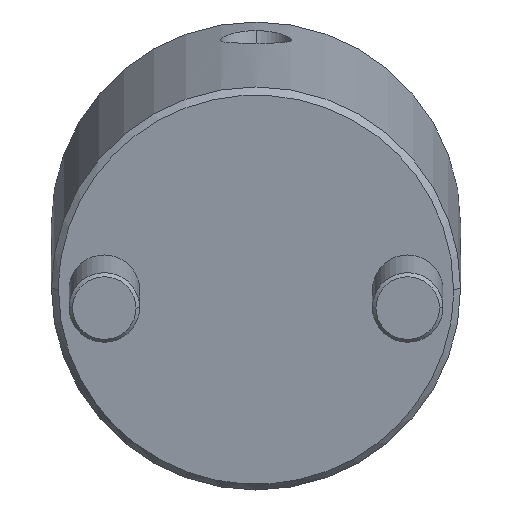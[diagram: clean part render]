
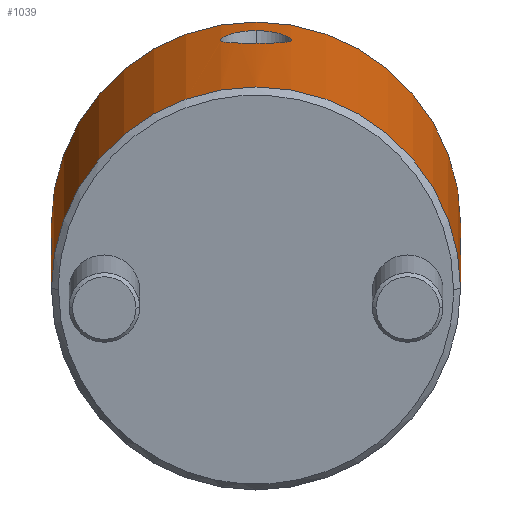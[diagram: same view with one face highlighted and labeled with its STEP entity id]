
A CAD part, front view. The second image highlights one B-rep face of the part: STEP entity #1039.
In plain terms, the highlighted cylindrical face has radius 29 mm (diameter 58 mm), a partial arc.
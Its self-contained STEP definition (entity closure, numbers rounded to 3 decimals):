
#772=CARTESIAN_POINT('Vertex',(0.,29.,1.)) ;
#775=CARTESIAN_POINT('Axis2P3D Location',(0.,0.,1.)) ;
#779=CARTESIAN_POINT('Vertex',(0.,-29.,1.)) ;
#931=CARTESIAN_POINT('Axis2P3D Location',(0.,0.,-2.75)) ;
#936=CARTESIAN_POINT('Line Origine',(0.,29.,-2.75)) ;
#940=CARTESIAN_POINT('Vertex',(0.,29.,54.)) ;
#943=CARTESIAN_POINT('Axis2P3D Location',(0.,0.,54.)) ;
#947=CARTESIAN_POINT('Vertex',(0.,-29.,54.)) ;
#950=CARTESIAN_POINT('Line Origine',(0.,-29.,-2.75)) ;
#962=CARTESIAN_POINT('Control Point',(29.,0.,46.955)) ;
#963=CARTESIAN_POINT('Control Point',(29.,0.427,46.955)) ;
#964=CARTESIAN_POINT('Control Point',(28.992,0.85,46.909)) ;
#965=CARTESIAN_POINT('Control Point',(28.977,1.272,46.813)) ;
#966=CARTESIAN_POINT('Control Point',(28.943,1.883,46.602)) ;
#967=CARTESIAN_POINT('Control Point',(28.897,2.455,46.291)) ;
#968=CARTESIAN_POINT('Control Point',(28.88,2.642,46.176)) ;
#969=CARTESIAN_POINT('Control Point',(28.845,3.003,45.926)) ;
#970=CARTESIAN_POINT('Control Point',(28.808,3.336,45.636)) ;
#971=CARTESIAN_POINT('Control Point',(28.789,3.495,45.482)) ;
#972=CARTESIAN_POINT('Control Point',(28.732,3.952,44.989)) ;
#973=CARTESIAN_POINT('Control Point',(28.677,4.325,44.429)) ;
#974=CARTESIAN_POINT('Control Point',(28.645,4.532,44.028)) ;
#975=CARTESIAN_POINT('Control Point',(28.604,4.777,43.404)) ;
#976=CARTESIAN_POINT('Control Point',(28.58,4.919,42.751)) ;
#977=CARTESIAN_POINT('Control Point',(28.573,4.955,42.53)) ;
#978=CARTESIAN_POINT('Control Point',(28.563,5.016,41.981)) ;
#979=CARTESIAN_POINT('Control Point',(28.565,5.003,41.43)) ;
#980=CARTESIAN_POINT('Control Point',(28.571,4.968,41.099)) ;
#981=CARTESIAN_POINT('Control Point',(28.596,4.826,40.344)) ;
#982=CARTESIAN_POINT('Control Point',(28.642,4.545,39.632)) ;
#983=CARTESIAN_POINT('Control Point',(28.675,4.341,39.243)) ;
#984=CARTESIAN_POINT('Control Point',(28.729,3.974,38.702)) ;
#985=CARTESIAN_POINT('Control Point',(28.786,3.524,38.229)) ;
#986=CARTESIAN_POINT('Control Point',(28.805,3.366,38.08)) ;
#987=CARTESIAN_POINT('Control Point',(28.842,3.033,37.799)) ;
#988=CARTESIAN_POINT('Control Point',(28.878,2.671,37.556)) ;
#989=CARTESIAN_POINT('Control Point',(28.895,2.482,37.444)) ;
#990=CARTESIAN_POINT('Control Point',(28.941,1.907,37.143)) ;
#991=CARTESIAN_POINT('Control Point',(28.976,1.287,36.939)) ;
#992=CARTESIAN_POINT('Control Point',(28.992,0.861,36.847)) ;
#993=CARTESIAN_POINT('Control Point',(29.,0.432,36.801)) ;
#994=CARTESIAN_POINT('Control Point',(29.,0.,36.801)) ;
#995=CARTESIAN_POINT('Vertex',(29.,0.,46.955)) ;
#997=CARTESIAN_POINT('Vertex',(29.,0.,36.801)) ;
#1001=CARTESIAN_POINT('Control Point',(29.,0.,36.801)) ;
#1002=CARTESIAN_POINT('Control Point',(29.,-0.219,36.801)) ;
#1003=CARTESIAN_POINT('Control Point',(28.998,-0.438,36.813)) ;
#1004=CARTESIAN_POINT('Control Point',(28.994,-0.655,36.836)) ;
#1005=CARTESIAN_POINT('Control Point',(28.982,-1.087,36.907)) ;
#1006=CARTESIAN_POINT('Control Point',(28.962,-1.51,37.024)) ;
#1007=CARTESIAN_POINT('Control Point',(28.95,-1.717,37.093)) ;
#1008=CARTESIAN_POINT('Control Point',(28.924,-2.123,37.255)) ;
#1009=CARTESIAN_POINT('Control Point',(28.892,-2.509,37.459)) ;
#1010=CARTESIAN_POINT('Control Point',(28.875,-2.697,37.573)) ;
#1011=CARTESIAN_POINT('Control Point',(28.822,-3.237,37.94)) ;
#1012=CARTESIAN_POINT('Control Point',(28.764,-3.711,38.391)) ;
#1013=CARTESIAN_POINT('Control Point',(28.725,-3.994,38.727)) ;
#1014=CARTESIAN_POINT('Control Point',(28.672,-4.357,39.271)) ;
#1015=CARTESIAN_POINT('Control Point',(28.629,-4.626,39.868)) ;
#1016=CARTESIAN_POINT('Control Point',(28.616,-4.705,40.071)) ;
#1017=CARTESIAN_POINT('Control Point',(28.593,-4.84,40.485)) ;
#1018=CARTESIAN_POINT('Control Point',(28.578,-4.93,40.914)) ;
#1019=CARTESIAN_POINT('Control Point',(28.572,-4.963,41.133)) ;
#1020=CARTESIAN_POINT('Control Point',(28.561,-5.029,41.793)) ;
#1021=CARTESIAN_POINT('Control Point',(28.568,-4.987,42.456)) ;
#1022=CARTESIAN_POINT('Control Point',(28.581,-4.912,42.898)) ;
#1023=CARTESIAN_POINT('Control Point',(28.623,-4.67,43.756)) ;
#1024=CARTESIAN_POINT('Control Point',(28.688,-4.251,44.551)) ;
#1025=CARTESIAN_POINT('Control Point',(28.725,-4.001,44.922)) ;
#1026=CARTESIAN_POINT('Control Point',(28.802,-3.424,45.61)) ;
#1027=CARTESIAN_POINT('Control Point',(28.875,-2.721,46.15)) ;
#1028=CARTESIAN_POINT('Control Point',(28.909,-2.344,46.379)) ;
#1029=CARTESIAN_POINT('Control Point',(28.958,-1.663,46.697)) ;
#1030=CARTESIAN_POINT('Control Point',(28.987,-0.938,46.878)) ;
#1031=CARTESIAN_POINT('Control Point',(28.996,-0.626,46.93)) ;
#1032=CARTESIAN_POINT('Control Point',(29.,-0.314,46.955)) ;
#1033=CARTESIAN_POINT('Control Point',(29.,0.,46.955)) ;
#776=DIRECTION('Axis2P3D Direction',(0.,0.,1.)) ;
#932=DIRECTION('Axis2P3D Direction',(0.,-0.,1.)) ;
#933=DIRECTION('Axis2P3D XDirection',(0.,-1.,0.)) ;
#937=DIRECTION('Vector Direction',(0.,0.,1.)) ;
#944=DIRECTION('Axis2P3D Direction',(0.,-0.,1.)) ;
#951=DIRECTION('Vector Direction',(0.,0.,1.)) ;
#777=AXIS2_PLACEMENT_3D('Circle Axis2P3D',#775,#776,$) ;
#934=AXIS2_PLACEMENT_3D('Cylinder Axis2P3D',#931,#932,#933) ;
#945=AXIS2_PLACEMENT_3D('Circle Axis2P3D',#943,#944,$) ;
#956=ORIENTED_EDGE('',*,*,#942,.F.) ;
#957=ORIENTED_EDGE('',*,*,#949,.T.) ;
#958=ORIENTED_EDGE('',*,*,#954,.T.) ;
#959=ORIENTED_EDGE('',*,*,#781,.F.) ;
#1036=ORIENTED_EDGE('',*,*,#999,.T.) ;
#1037=ORIENTED_EDGE('',*,*,#1034,.T.) ;
#1038=FACE_BOUND('',#1035,.T.) ;
#938=VECTOR('Line Direction',#937,1.) ;
#952=VECTOR('Line Direction',#951,1.) ;
#1039=ADVANCED_FACE('MANIFOLD_SOLID_BREP #1146',(#960,#1038),#935,.T.) ;
#961=B_SPLINE_CURVE_WITH_KNOTS('',5,(#962,#963,#964,#965,#966,#967,#968,#969,#970,#971,#972,#973,#974,#975,#976,#977,#978,#979,#980,#981,#982,#983,#984,#985,#986,#987,#988,#989,#990,#991,#992,#993,#994),.UNSPECIFIED.,.F.,.U.,(6,3,3,3,3,3,3,3,3,3,6),(0.,3.07,4.614,6.168,9.302,10.865,13.188,16.279,17.83,19.379,22.437),.UNSPECIFIED.) ;
#1000=B_SPLINE_CURVE_WITH_KNOTS('',5,(#1001,#1002,#1003,#1004,#1005,#1006,#1007,#1008,#1009,#1010,#1011,#1012,#1013,#1014,#1015,#1016,#1017,#1018,#1019,#1020,#1021,#1022,#1023,#1024,#1025,#1026,#1027,#1028,#1029,#1030,#1031,#1032,#1033),.UNSPECIFIED.,.F.,.U.,(6,3,3,3,3,3,3,3,3,3,6),(0.,1.553,3.104,4.653,7.749,9.295,10.843,13.969,17.094,20.18,22.436),.UNSPECIFIED.) ;
#778=CIRCLE('generated circle',#777,29.) ;
#946=CIRCLE('generated circle',#945,29.) ;
#935=CYLINDRICAL_SURFACE('generated cylinder',#934,29.) ;
#781=EDGE_CURVE('',#773,#780,#778,.F.) ;
#942=EDGE_CURVE('',#941,#773,#939,.F.) ;
#949=EDGE_CURVE('',#941,#948,#946,.F.) ;
#954=EDGE_CURVE('',#948,#780,#953,.F.) ;
#999=EDGE_CURVE('',#996,#998,#961,.T.) ;
#1034=EDGE_CURVE('',#998,#996,#1000,.T.) ;
#955=EDGE_LOOP('',(#956,#957,#958,#959)) ;
#1035=EDGE_LOOP('',(#1036,#1037)) ;
#960=FACE_OUTER_BOUND('',#955,.T.) ;
#939=LINE('Line',#936,#938) ;
#953=LINE('Line',#950,#952) ;
#773=VERTEX_POINT('',#772) ;
#780=VERTEX_POINT('',#779) ;
#941=VERTEX_POINT('',#940) ;
#948=VERTEX_POINT('',#947) ;
#996=VERTEX_POINT('',#995) ;
#998=VERTEX_POINT('',#997) ;
